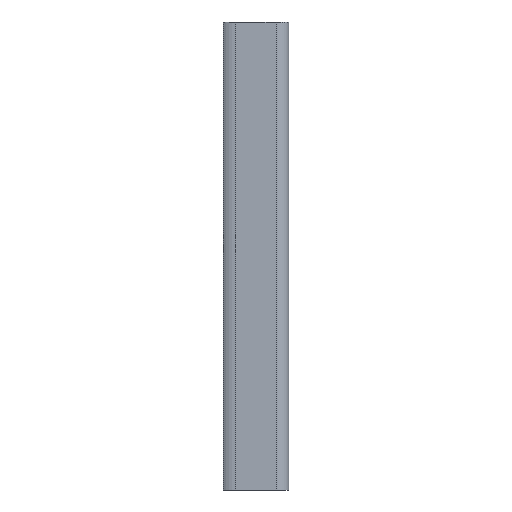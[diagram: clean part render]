
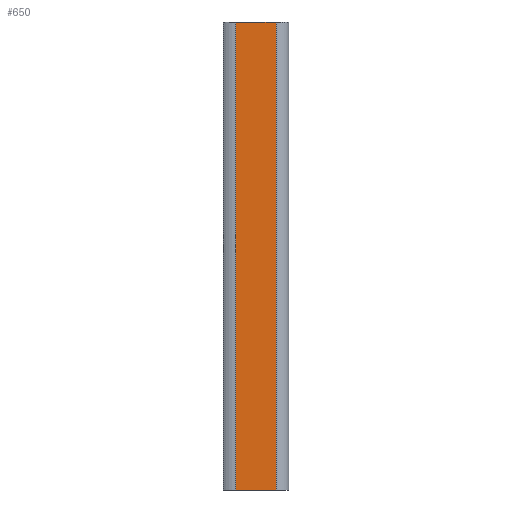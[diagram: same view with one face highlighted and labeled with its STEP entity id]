
A CAD part, left-side view. The second image highlights one B-rep face of the part: STEP entity #650.
In plain terms, the highlighted planar face has unit normal (-1, 0, 0).
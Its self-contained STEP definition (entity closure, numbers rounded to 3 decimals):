
#15 = VECTOR ( 'NONE', #321, 1000. ) ;
#36 = EDGE_CURVE ( 'NONE', #322, #545, #849, .T. ) ;
#44 = CARTESIAN_POINT ( 'NONE',  ( -13.5, 43.23, 250. ) ) ;
#67 = ORIENTED_EDGE ( 'NONE', *, *, #451, .T. ) ;
#70 = VECTOR ( 'NONE', #304, 1000. ) ;
#73 = VECTOR ( 'NONE', #510, 1000. ) ;
#124 = CARTESIAN_POINT ( 'NONE',  ( -13.5, 43.23, -250. ) ) ;
#157 = LINE ( 'NONE', #349, #73 ) ;
#171 = CARTESIAN_POINT ( 'NONE',  ( -13.5, 0., 250. ) ) ;
#207 = PLANE ( 'NONE',  #877 ) ;
#209 = ORIENTED_EDGE ( 'NONE', *, *, #36, .F. ) ;
#212 = LINE ( 'NONE', #124, #70 ) ;
#237 = VECTOR ( 'NONE', #1083, 1000. ) ;
#272 = CARTESIAN_POINT ( 'NONE',  ( -13.5, 43.23, 250. ) ) ;
#304 = DIRECTION ( 'NONE',  ( 0., -1., 0. ) ) ;
#321 = DIRECTION ( 'NONE',  ( 0., -1., 0. ) ) ;
#322 = VERTEX_POINT ( 'NONE', #967 ) ;
#349 = CARTESIAN_POINT ( 'NONE',  ( -13.5, 0., 250. ) ) ;
#397 = EDGE_CURVE ( 'NONE', #322, #1057, #733, .T. ) ;
#451 = EDGE_CURVE ( 'NONE', #1057, #943, #212, .T. ) ;
#476 = ORIENTED_EDGE ( 'NONE', *, *, #481, .F. ) ;
#481 = EDGE_CURVE ( 'NONE', #545, #943, #157, .T. ) ;
#510 = DIRECTION ( 'NONE',  ( 0., 0., -1. ) ) ;
#545 = VERTEX_POINT ( 'NONE', #171 ) ;
#624 = DIRECTION ( 'NONE',  ( 0., 1., 0. ) ) ;
#650 = ADVANCED_FACE ( 'NONE', ( #725 ), #207, .F. ) ;
#702 = EDGE_LOOP ( 'NONE', ( #67, #476, #209, #735 ) ) ;
#725 = FACE_OUTER_BOUND ( 'NONE', #702, .T. ) ;
#733 = LINE ( 'NONE', #44, #237 ) ;
#735 = ORIENTED_EDGE ( 'NONE', *, *, #397, .T. ) ;
#800 = CARTESIAN_POINT ( 'NONE',  ( -13.5, 43.23, -250. ) ) ;
#849 = LINE ( 'NONE', #919, #15 ) ;
#877 = AXIS2_PLACEMENT_3D ( 'NONE', #272, #990, #624 ) ;
#919 = CARTESIAN_POINT ( 'NONE',  ( -13.5, 43.23, 250. ) ) ;
#943 = VERTEX_POINT ( 'NONE', #1021 ) ;
#967 = CARTESIAN_POINT ( 'NONE',  ( -13.5, 43.23, 250. ) ) ;
#990 = DIRECTION ( 'NONE',  ( 1., 0., 0. ) ) ;
#1021 = CARTESIAN_POINT ( 'NONE',  ( -13.5, 0., -250. ) ) ;
#1057 = VERTEX_POINT ( 'NONE', #800 ) ;
#1083 = DIRECTION ( 'NONE',  ( 0., 0., -1. ) ) ;
